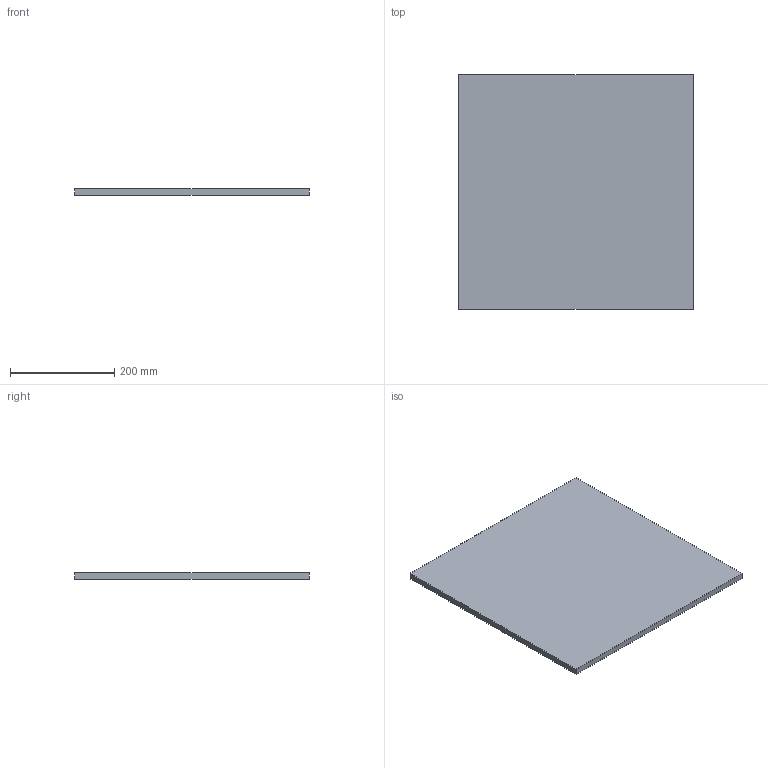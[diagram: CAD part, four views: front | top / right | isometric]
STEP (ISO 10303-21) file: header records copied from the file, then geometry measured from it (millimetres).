
FILE_DESCRIPTION(('CATIA V5 STEP Exchange'),'2;1');
FILE_NAME('C:\Users\user\Documents\Jakob\BAC - Arbeit 1\CAD Modell\CAD-Modell-Step files\Base\Base_bottom.stp','2018-12-13T14:14:06+00:00',('none'),('none'),'Version 5-6 Release 2012','CATIA V5 STEP AP203','none');
FILE_SCHEMA(('CONFIG_CONTROL_DESIGN'));
Length unit declared in the file: millimetre
Products named in the file (1): Base_bottom
Bounding box: 450 x 450 x 12 mm (x, y, z)
Volume: 2430000 mm3; surface area: 426600 mm2
Topology: 1 solids, 1 shells, 6 faces, 12 edges, 8 vertices
Faces by surface type: plane 6
Entity records: 198 total; most frequent: CARTESIAN_POINT 27, DIRECTION 24, ORIENTED_EDGE 24, VECTOR 12, EDGE_CURVE 12, LINE 12, VERTEX_POINT 8, AXIS2_PLACEMENT_3D 7
